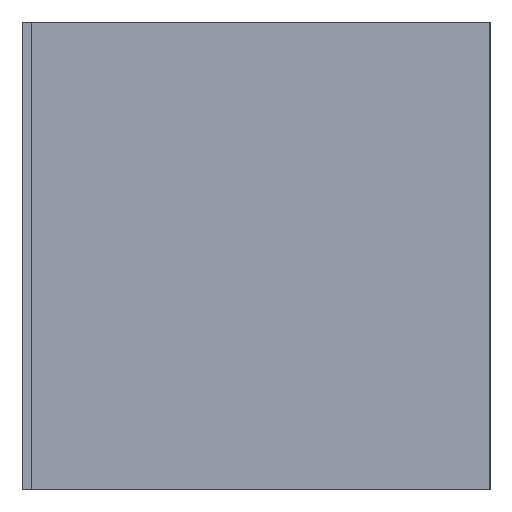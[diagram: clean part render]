
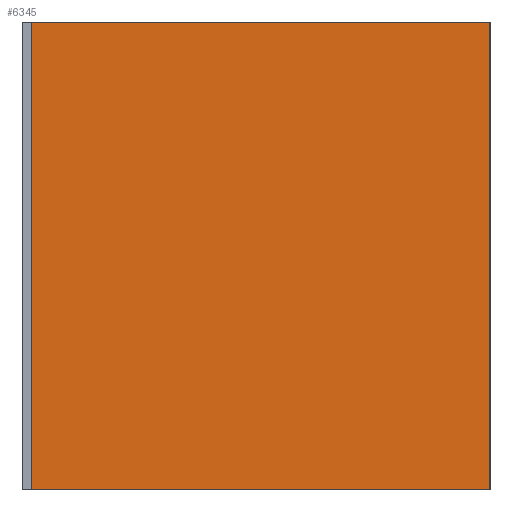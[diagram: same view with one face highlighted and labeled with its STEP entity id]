
A CAD part, left-side view. The second image highlights one B-rep face of the part: STEP entity #6345.
In plain terms, the highlighted planar face has unit normal (-1, 0, 0).
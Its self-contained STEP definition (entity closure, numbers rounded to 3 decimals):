
#56 = VERTEX_POINT ( 'NONE', #2668 ) ;
#592 = CARTESIAN_POINT ( 'NONE',  ( -99.091, -24.328, 23.518 ) ) ;
#1331 = VECTOR ( 'NONE', #5485, 1000. ) ;
#1443 = VERTEX_POINT ( 'NONE', #6294 ) ;
#2124 = DIRECTION ( 'NONE',  ( 0., -1., 0. ) ) ;
#2471 = DIRECTION ( 'NONE',  ( 0., 0., -1. ) ) ;
#2553 = VERTEX_POINT ( 'NONE', #5161 ) ;
#2650 = ORIENTED_EDGE ( 'NONE', *, *, #6453, .T. ) ;
#2668 = CARTESIAN_POINT ( 'NONE',  ( -99.091, -24.328, 97.178 ) ) ;
#2955 = VERTEX_POINT ( 'NONE', #7307 ) ;
#2961 = DIRECTION ( 'NONE',  ( 0., 0., 1. ) ) ;
#3131 = EDGE_CURVE ( 'NONE', #2955, #56, #6052, .T. ) ;
#3362 = DIRECTION ( 'NONE',  ( 0., 0., -1. ) ) ;
#3406 = ORIENTED_EDGE ( 'NONE', *, *, #6458, .T. ) ;
#3868 = CARTESIAN_POINT ( 'NONE',  ( -99.091, 12.502, 97.178 ) ) ;
#4324 = LINE ( 'NONE', #6902, #6097 ) ;
#4459 = VECTOR ( 'NONE', #2124, 1000. ) ;
#4461 = LINE ( 'NONE', #7236, #1331 ) ;
#4510 = EDGE_LOOP ( 'NONE', ( #5441, #5199, #2650, #3406 ) ) ;
#4732 = PLANE ( 'NONE',  #6852 ) ;
#4862 = LINE ( 'NONE', #4871, #7621 ) ;
#4871 = CARTESIAN_POINT ( 'NONE',  ( -99.091, 47.832, 60.348 ) ) ;
#5161 = CARTESIAN_POINT ( 'NONE',  ( -99.091, 47.832, 23.518 ) ) ;
#5199 = ORIENTED_EDGE ( 'NONE', *, *, #3131, .F. ) ;
#5441 = ORIENTED_EDGE ( 'NONE', *, *, #6103, .F. ) ;
#5485 = DIRECTION ( 'NONE',  ( 0., -1., 0. ) ) ;
#6052 = LINE ( 'NONE', #3868, #4459 ) ;
#6097 = VECTOR ( 'NONE', #3362, 1000. ) ;
#6103 = EDGE_CURVE ( 'NONE', #56, #1443, #4324, .T. ) ;
#6294 = CARTESIAN_POINT ( 'NONE',  ( -99.091, -24.328, 23.518 ) ) ;
#6345 = ADVANCED_FACE ( 'NONE', ( #7383 ), #4732, .T. ) ;
#6453 = EDGE_CURVE ( 'NONE', #2955, #2553, #4862, .T. ) ;
#6458 = EDGE_CURVE ( 'NONE', #2553, #1443, #4461, .T. ) ;
#6520 = DIRECTION ( 'NONE',  ( -1., 0., 0. ) ) ;
#6852 = AXIS2_PLACEMENT_3D ( 'NONE', #592, #6520, #2961 ) ;
#6902 = CARTESIAN_POINT ( 'NONE',  ( -99.091, -24.328, 23.518 ) ) ;
#7236 = CARTESIAN_POINT ( 'NONE',  ( -99.091, 12.502, 23.518 ) ) ;
#7307 = CARTESIAN_POINT ( 'NONE',  ( -99.091, 47.832, 97.178 ) ) ;
#7383 = FACE_OUTER_BOUND ( 'NONE', #4510, .T. ) ;
#7621 = VECTOR ( 'NONE', #2471, 1000. ) ;
